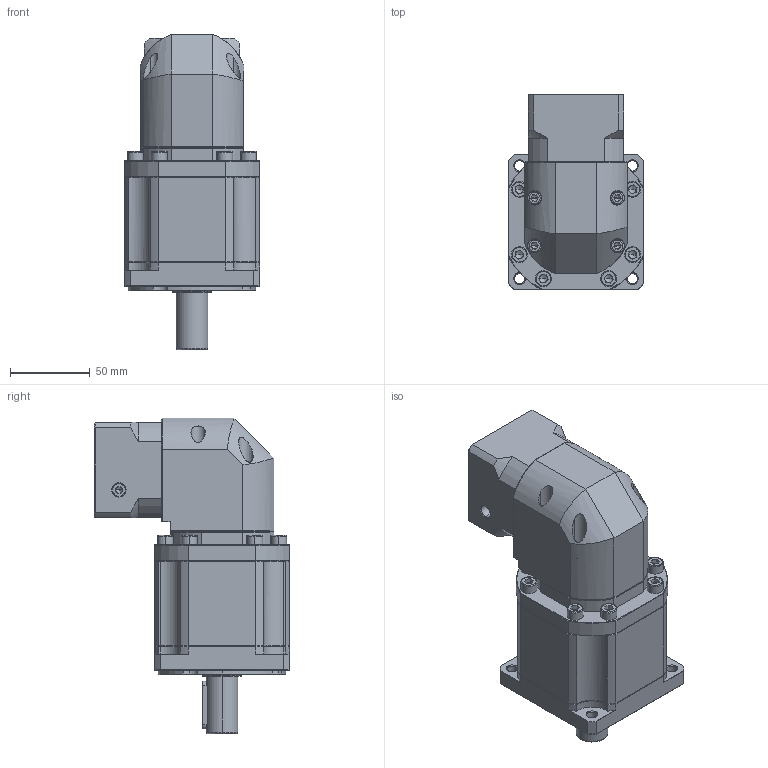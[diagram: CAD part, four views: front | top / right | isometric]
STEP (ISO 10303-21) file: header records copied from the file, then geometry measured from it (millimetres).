
FILE_DESCRIPTION (( 'STEP AP214' ), '1' );
FILE_NAME ('ZBR090-D20-L3-P2-11-50-70-M5.step', '2023-08-19T03:56:09', ( '' ), ( '' ), 'SwSTEP 2.0', 'SolidWorks 2016', '' );
FILE_SCHEMA (( 'AUTOMOTIVE_DESIGN' ));
Length unit declared in the file: millimetre
Products named in the file (1): ZBR090-D20-L3-P2-11-50-70-M5
Bounding box: 85 x 122.7 x 198 mm (x, y, z)
Volume: 921135.8 mm3; surface area: 105454.4 mm2
Topology: 5 solids, 5 shells, 2438 faces, 6484 edges, 4148 vertices
Faces by surface type: plane 1178, cylinder 445, bspline 426, cone 369, torus 20
Entity records: 129731 total; most frequent: CARTESIAN_POINT 45594, ORIENTED_EDGE 12876, DIRECTION 10376, EDGE_CURVE 6438, VERTEX_POINT 4148, VECTOR 4034, LINE 4034, AXIS2_PLACEMENT_3D 3171
